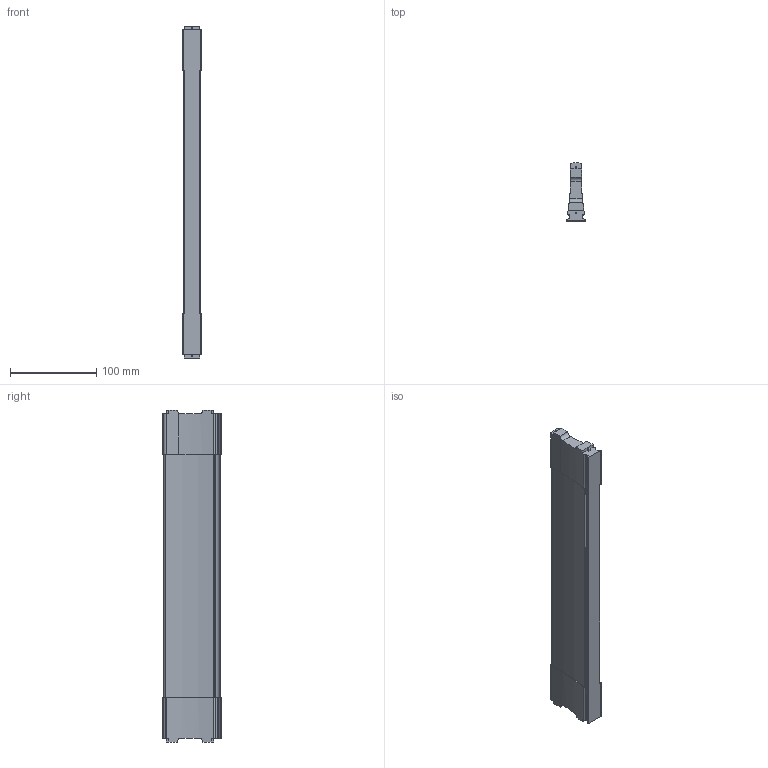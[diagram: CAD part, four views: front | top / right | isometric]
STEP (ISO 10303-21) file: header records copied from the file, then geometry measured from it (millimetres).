
FILE_DESCRIPTION (( 'STEP AP214' ), '1' );
FILE_NAME ('Traverse NOVAPro NL400 Mass X375,4.step', '2010-09-21T13:16:53', ( 'grass' ), ( '' ), 'SwSTEP 2.0', 'SolidWorks 2010', '' );
FILE_SCHEMA (( 'AUTOMOTIVE_DESIGN' ));
Length unit declared in the file: millimetre
Products named in the file (1): Traverse NOVAPro NL400 Mass X375,4
Bounding box: 21.4 x 67.5 x 384.4 mm (x, y, z)
Volume: 323224.9 mm3; surface area: 67464.7 mm2
Topology: 1 solids, 1 shells, 125 faces, 369 edges, 246 vertices
Faces by surface type: cylinder 68, plane 57
Entity records: 4377 total; most frequent: CARTESIAN_POINT 879, DIRECTION 753, ORIENTED_EDGE 738, EDGE_CURVE 369, AXIS2_PLACEMENT_3D 268, VERTEX_POINT 246, VECTOR 217, LINE 217
